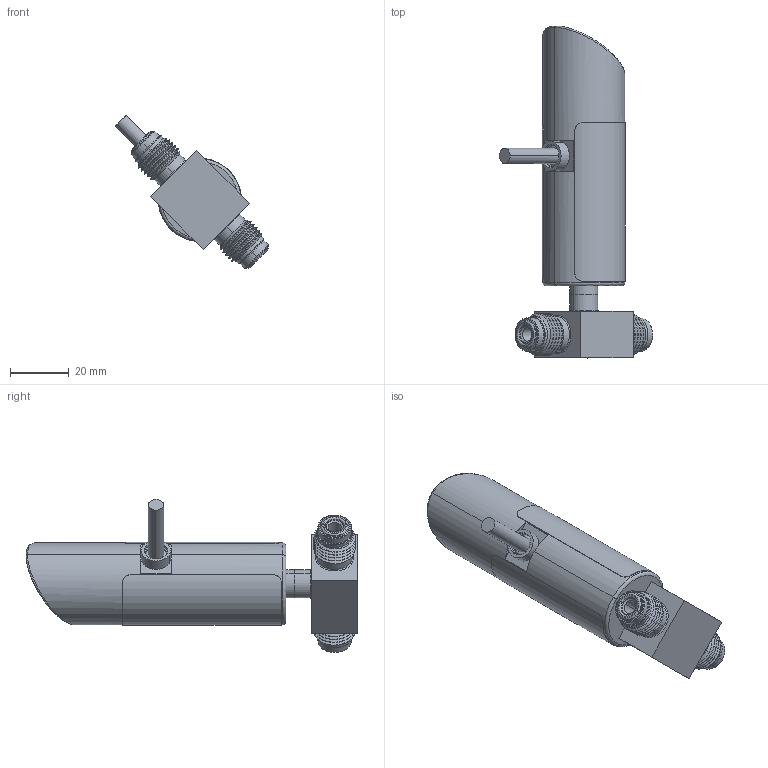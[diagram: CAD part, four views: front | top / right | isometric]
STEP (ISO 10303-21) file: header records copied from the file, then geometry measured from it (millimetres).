
FILE_DESCRIPTION (( 'STEP AP214' ), '1' );
FILE_NAME ('GRF-XXXXXX-P-XXX-VM.STEP', '2025-06-25T16:22:48', ( '' ), ( '' ), 'SwSTEP 2.0', 'SolidWorks 2023', '' );
FILE_SCHEMA (( 'AUTOMOTIVE_DESIGN' ));
Length unit declared in the file: inch
Products named in the file (4): GRx-XXXXXX-P BODY; GRF-XXXXXX-P-XXX-VM; 333125_A333125004; GRx_P
Assembly tree (3 placements, depth 2):
  GRF-XXXXXX-P-XXX-VM
    GRx-XXXXXX-P BODY
    GRx_P
    333125_A333125004
Bounding box: 52.19 x 113.13 x 52.19 mm (x, y, z)
Volume: 61366.2 mm3; surface area: 16823.7 mm2
Topology: 5 solids, 6 shells, 1214 faces, 3286 edges, 2169 vertices
Faces by surface type: plane 973, cylinder 106, bspline 57, cone 36, torus 30, sphere 12
Entity records: 43406 total; most frequent: CARTESIAN_POINT 12998, ORIENTED_EDGE 6572, DIRECTION 5699, EDGE_CURVE 3286, VECTOR 2783, LINE 2783, VERTEX_POINT 2169, AXIS2_PLACEMENT_3D 1458
